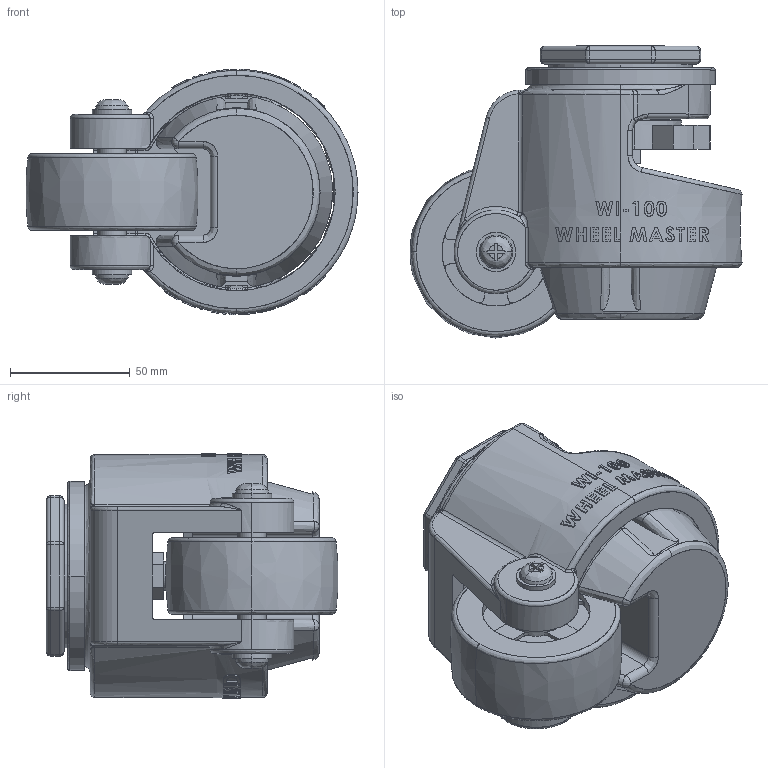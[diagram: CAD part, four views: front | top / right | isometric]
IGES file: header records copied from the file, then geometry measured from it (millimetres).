
Start section: SolidWorks IGES file using analytic representation for surfaces
Global section: file name: 1HK:\辫屈霖累诀\快老墨促肺弊(NEW)\权其捞瘤诀肺靛侩3D\WI100S.IGS; native system: SolidWorks 2011; preprocessor: SolidWorks 2011; author: 俺惯何,,1; organization: 1; date: 110207.191012; units: millimetre
Bounding box: 138.66 x 121.91 x 102.5 mm (x, y, z)
Surface area: 124418.3 mm2 (no closed solid volume)
Topology: 0 solids, 0 shells, 1001 faces, 12526 edges, 12504 vertices
Faces by surface type: bspline 742, revolution 259
